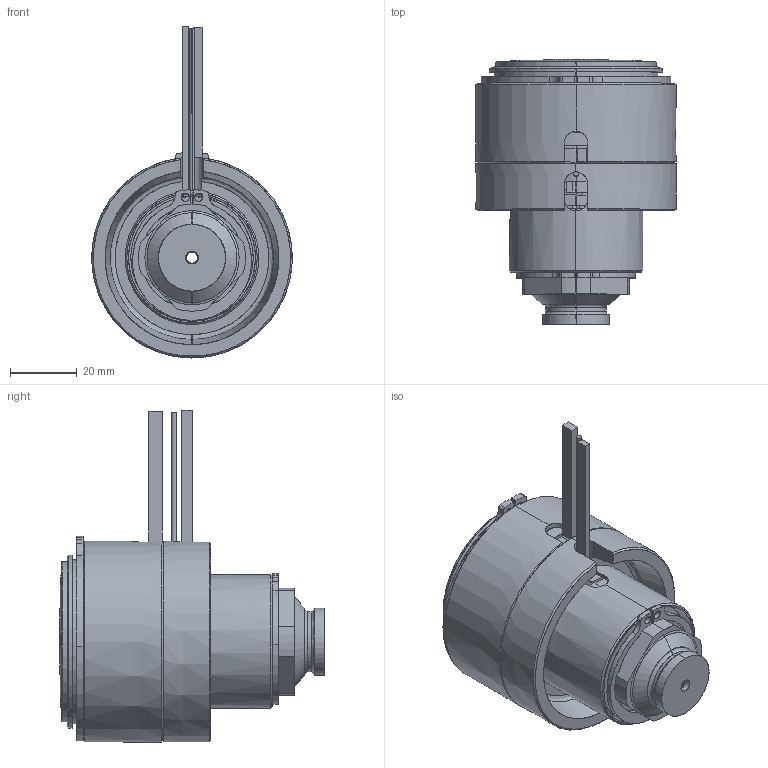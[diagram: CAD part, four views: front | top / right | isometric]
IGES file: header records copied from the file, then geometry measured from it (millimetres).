
Start section: SolidWorks IGES file using analytic representation for surfaces
Global section: file name: C:\Documents and Settings\ws-20\Desktop\TEM\UGER6601-M-A-1 [Øb-3.3 P-0 ØC-15].IGS; native system: SolidWorks 2012; preprocessor: SolidWorks 2012; author: ws-20; date: 120417.115352; units: millimetre
Bounding box: 60 x 79.25 x 99.3 mm (x, y, z)
Surface area: 50398.5 mm2 (no closed solid volume)
Topology: 0 solids, 0 shells, 182 faces, 3779 edges, 3779 vertices
Faces by surface type: revolution 114, bspline 68
